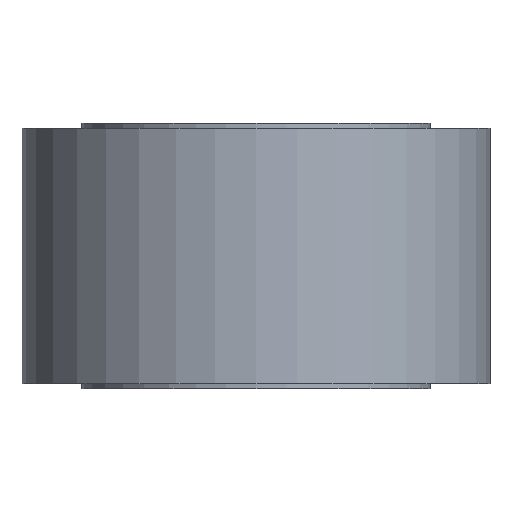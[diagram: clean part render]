
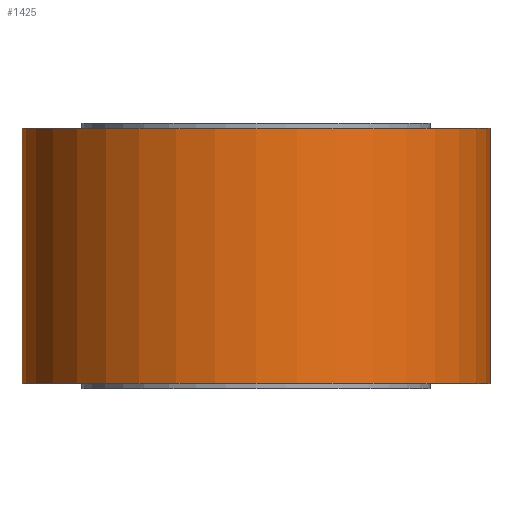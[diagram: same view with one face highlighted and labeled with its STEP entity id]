
A CAD part, front view. The second image highlights one B-rep face of the part: STEP entity #1425.
In plain terms, the highlighted cylindrical face has radius 44 mm (diameter 88 mm), a full revolution.
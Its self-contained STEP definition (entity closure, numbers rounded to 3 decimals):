
#30=B_SPLINE_CURVE_WITH_KNOTS('',3,(#2361,#2362,#2363,#2364,#2365,#2366,
#2367,#2368,#2369,#2370,#2371,#2372,#2373,#2374,#2375,#2376,#2377,#2378,
#2379),.UNSPECIFIED.,.F.,.F.,(4,2,2,2,3,2,2,2,4),(2.829,3.065,
3.301,3.537,3.772,4.008,4.244,
4.48,4.715),.UNSPECIFIED.);
#31=B_SPLINE_CURVE_WITH_KNOTS('',3,(#2380,#2381,#2382,#2383,#2384,#2385,
#2386,#2387,#2388,#2389,#2390,#2391,#2392,#2393,#2394,#2395,#2396,#2397),
 .UNSPECIFIED.,.F.,.F.,(4,2,2,2,2,2,2,2,4),(0.943,1.179,
1.415,1.65,1.886,2.122,2.358,
2.593,2.829),.UNSPECIFIED.);
#64=FACE_BOUND('',#228,.T.);
#133=FACE_OUTER_BOUND('',#227,.T.);
#227=EDGE_LOOP('',(#1034,#1035,#1036,#1037,#1038,#1039));
#228=EDGE_LOOP('',(#1040,#1041));
#316=LINE('',#2355,#384);
#384=VECTOR('',#1867,44.);
#480=CIRCLE('',#1569,44.);
#481=CIRCLE('',#1570,44.);
#482=CIRCLE('',#1572,44.);
#483=CIRCLE('',#1573,44.);
#610=VERTEX_POINT('',#2349);
#611=VERTEX_POINT('',#2350);
#612=VERTEX_POINT('',#2354);
#613=VERTEX_POINT('',#2356);
#614=VERTEX_POINT('',#2359);
#615=VERTEX_POINT('',#2360);
#773=EDGE_CURVE('',#610,#611,#480,.T.);
#774=EDGE_CURVE('',#611,#610,#481,.T.);
#775=EDGE_CURVE('',#611,#612,#316,.T.);
#776=EDGE_CURVE('',#612,#613,#482,.T.);
#777=EDGE_CURVE('',#613,#612,#483,.T.);
#778=EDGE_CURVE('',#614,#615,#30,.T.);
#779=EDGE_CURVE('',#615,#614,#31,.T.);
#1034=ORIENTED_EDGE('',*,*,#773,.F.);
#1035=ORIENTED_EDGE('',*,*,#774,.F.);
#1036=ORIENTED_EDGE('',*,*,#775,.T.);
#1037=ORIENTED_EDGE('',*,*,#776,.T.);
#1038=ORIENTED_EDGE('',*,*,#777,.T.);
#1039=ORIENTED_EDGE('',*,*,#775,.F.);
#1040=ORIENTED_EDGE('',*,*,#778,.T.);
#1041=ORIENTED_EDGE('',*,*,#779,.T.);
#1380=CYLINDRICAL_SURFACE('',#1571,44.);
#1425=ADVANCED_FACE('',(#133,#64),#1380,.T.);
#1569=AXIS2_PLACEMENT_3D('',#2351,#1861,#1862);
#1570=AXIS2_PLACEMENT_3D('',#2352,#1863,#1864);
#1571=AXIS2_PLACEMENT_3D('',#2353,#1865,#1866);
#1572=AXIS2_PLACEMENT_3D('',#2357,#1868,#1869);
#1573=AXIS2_PLACEMENT_3D('',#2358,#1870,#1871);
#1861=DIRECTION('center_axis',(0.,0.,1.));
#1862=DIRECTION('ref_axis',(1.,0.,0.));
#1863=DIRECTION('center_axis',(0.,0.,1.));
#1864=DIRECTION('ref_axis',(1.,0.,0.));
#1865=DIRECTION('center_axis',(0.,0.,1.));
#1866=DIRECTION('ref_axis',(1.,0.,0.));
#1867=DIRECTION('',(0.,0.,-1.));
#1868=DIRECTION('center_axis',(0.,0.,1.));
#1869=DIRECTION('ref_axis',(1.,0.,0.));
#1870=DIRECTION('center_axis',(0.,0.,1.));
#1871=DIRECTION('ref_axis',(1.,0.,0.));
#2349=CARTESIAN_POINT('',(44.,0.,49.));
#2350=CARTESIAN_POINT('',(-44.,0.,49.));
#2351=CARTESIAN_POINT('Origin',(0.,0.,49.));
#2352=CARTESIAN_POINT('Origin',(0.,0.,49.));
#2353=CARTESIAN_POINT('Origin',(0.,0.,25.));
#2354=CARTESIAN_POINT('',(-44.,0.,1.));
#2355=CARTESIAN_POINT('',(-44.,0.,25.));
#2356=CARTESIAN_POINT('',(44.,0.,1.));
#2357=CARTESIAN_POINT('Origin',(0.,0.,1.));
#2358=CARTESIAN_POINT('Origin',(0.,0.,1.));
#2359=CARTESIAN_POINT('',(0.,44.,18.75));
#2360=CARTESIAN_POINT('',(0.,44.,31.25));
#2361=CARTESIAN_POINT('Ctrl Pts',(0.,44.,18.75));
#2362=CARTESIAN_POINT('Ctrl Pts',(0.786,44.,18.75));
#2363=CARTESIAN_POINT('Ctrl Pts',(1.623,43.977,18.907));
#2364=CARTESIAN_POINT('Ctrl Pts',(3.163,43.893,19.545));
#2365=CARTESIAN_POINT('Ctrl Pts',(3.865,43.833,20.026));
#2366=CARTESIAN_POINT('Ctrl Pts',(4.974,43.722,21.135));
#2367=CARTESIAN_POINT('Ctrl Pts',(5.455,43.662,21.837));
#2368=CARTESIAN_POINT('Ctrl Pts',(6.093,43.577,23.377));
#2369=CARTESIAN_POINT('Ctrl Pts',(6.25,43.554,24.214));
#2370=CARTESIAN_POINT('Ctrl Pts',(6.25,43.554,25.));
#2371=CARTESIAN_POINT('Ctrl Pts',(6.25,43.554,25.786));
#2372=CARTESIAN_POINT('Ctrl Pts',(6.093,43.577,26.623));
#2373=CARTESIAN_POINT('Ctrl Pts',(5.455,43.662,28.163));
#2374=CARTESIAN_POINT('Ctrl Pts',(4.974,43.722,28.865));
#2375=CARTESIAN_POINT('Ctrl Pts',(3.865,43.833,29.974));
#2376=CARTESIAN_POINT('Ctrl Pts',(3.163,43.893,30.455));
#2377=CARTESIAN_POINT('Ctrl Pts',(1.623,43.977,31.093));
#2378=CARTESIAN_POINT('Ctrl Pts',(0.786,44.,31.25));
#2379=CARTESIAN_POINT('Ctrl Pts',(0.,44.,31.25));
#2380=CARTESIAN_POINT('Ctrl Pts',(0.,44.,31.25));
#2381=CARTESIAN_POINT('Ctrl Pts',(-0.786,44.,31.25));
#2382=CARTESIAN_POINT('Ctrl Pts',(-1.623,43.977,31.093));
#2383=CARTESIAN_POINT('Ctrl Pts',(-3.163,43.893,30.455));
#2384=CARTESIAN_POINT('Ctrl Pts',(-3.865,43.833,29.974));
#2385=CARTESIAN_POINT('Ctrl Pts',(-4.974,43.722,28.865));
#2386=CARTESIAN_POINT('Ctrl Pts',(-5.455,43.662,28.163));
#2387=CARTESIAN_POINT('Ctrl Pts',(-6.093,43.577,26.623));
#2388=CARTESIAN_POINT('Ctrl Pts',(-6.25,43.554,25.786));
#2389=CARTESIAN_POINT('Ctrl Pts',(-6.25,43.554,24.214));
#2390=CARTESIAN_POINT('Ctrl Pts',(-6.093,43.577,23.377));
#2391=CARTESIAN_POINT('Ctrl Pts',(-5.455,43.662,21.837));
#2392=CARTESIAN_POINT('Ctrl Pts',(-4.974,43.722,21.135));
#2393=CARTESIAN_POINT('Ctrl Pts',(-3.865,43.833,20.026));
#2394=CARTESIAN_POINT('Ctrl Pts',(-3.163,43.893,19.545));
#2395=CARTESIAN_POINT('Ctrl Pts',(-1.623,43.977,18.907));
#2396=CARTESIAN_POINT('Ctrl Pts',(-0.786,44.,18.75));
#2397=CARTESIAN_POINT('Ctrl Pts',(0.,44.,18.75));
